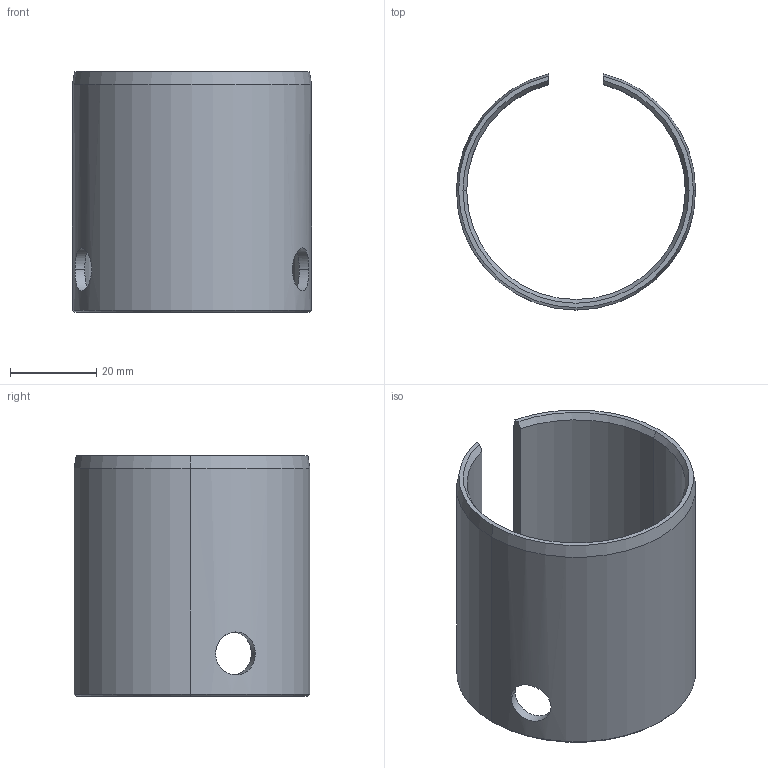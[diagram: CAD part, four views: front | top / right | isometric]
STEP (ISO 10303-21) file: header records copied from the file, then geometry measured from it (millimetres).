
FILE_DESCRIPTION (( 'STEP AP203' ), '1' );
FILE_NAME ('KBSH083P32.STEP', '2023-08-01T05:27:51', ( '' ), ( '' ), 'SwSTEP 2.0', 'SolidWorks 2017', '' );
FILE_SCHEMA (( 'CONFIG_CONTROL_DESIGN' ));
Length unit declared in the file: millimetre
Products named in the file (1): KBSH083P32
Bounding box: 55.56 x 54.83 x 56 mm (x, y, z)
Volume: 19859.8 mm3; surface area: 17808.8 mm2
Topology: 1 solids, 1 shells, 26 faces, 64 edges, 40 vertices
Faces by surface type: cone 12, cylinder 10, plane 4
Entity records: 1141 total; most frequent: CARTESIAN_POINT 451, ORIENTED_EDGE 128, DIRECTION 126, EDGE_CURVE 64, AXIS2_PLACEMENT_3D 51, VERTEX_POINT 40, EDGE_LOOP 30, FACE_OUTER_BOUND 26
